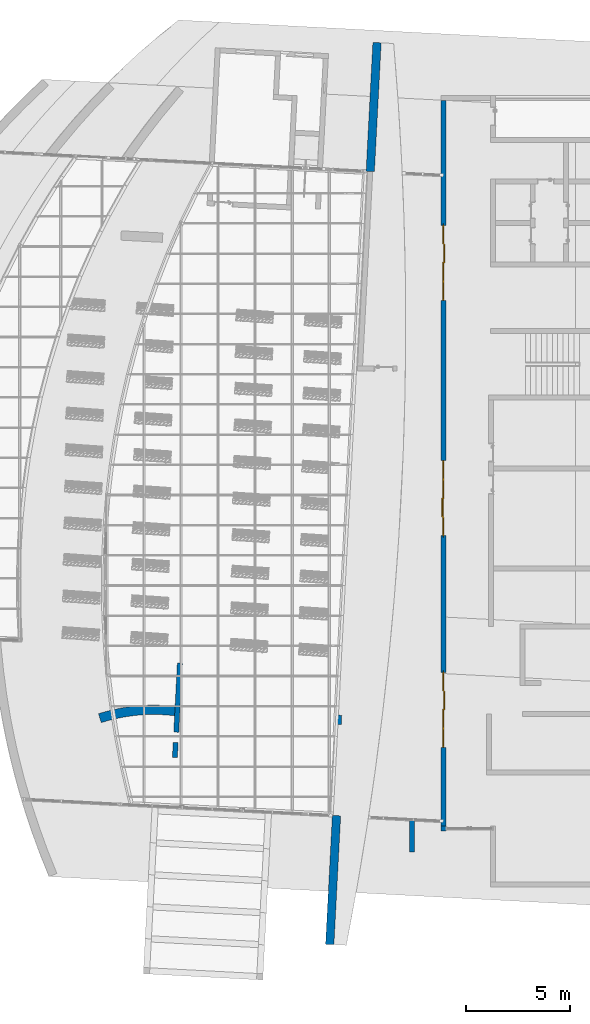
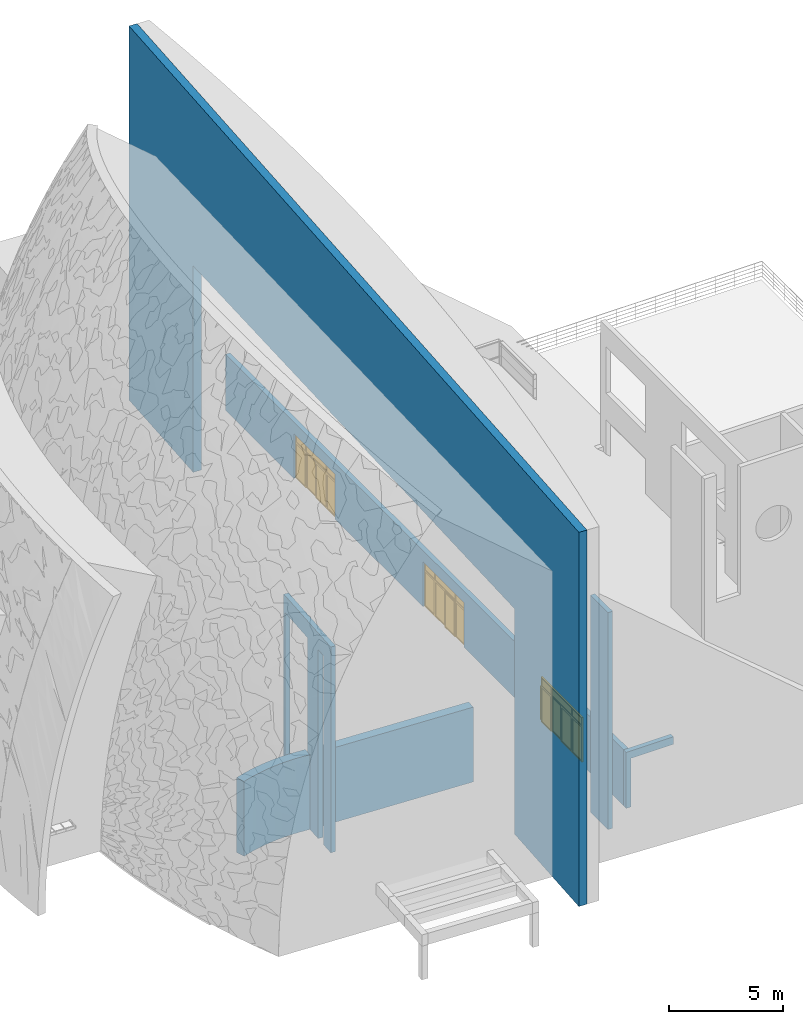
# One storey, part 52 of 82: 7 walls, 3 doors, 7 openings.
"""IFC2X3 building model written with IfcOpenShell, lengths in millimetres."""

from ifc_helpers import new_model, entity, si_unit, converted_unit, derived_unit, direction, frame, frame_2d, origin, origin_2d_with_axis, place, context, subcontext, project, spatial, polyline, circle_curve, parameter, trimmed, segment, composite_curve, rectangle, outline, extrude, source, transform, mapped, material, material_list, layer, layer_set, layer_usage, type_object, type_shapes, element, fill, save


model = new_model("IFC2X3")

# Units and contexts
model_context = context("Model", 3, precision=0.01, world=origin(), true_north=direction((6.12303176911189e-17, 1.0)))
body_context = subcontext(model_context, "Body", "Model", "MODEL_VIEW")
ifc_project = project(units=[si_unit("LENGTHUNIT", "METRE", prefix="MILLI"), si_unit("AREAUNIT", "SQUARE_METRE"), si_unit("VOLUMEUNIT", "CUBIC_METRE"), converted_unit("PLANEANGLEUNIT", "DEGREE", entity("IfcRatioMeasure", 0.0174532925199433), si_unit("PLANEANGLEUNIT", "RADIAN"), dimensions=[0, 0, 0, 0, 0, 0, 0]), si_unit("MASSUNIT", "GRAM", prefix="KILO"), derived_unit("MASSDENSITYUNIT", [(si_unit("MASSUNIT", "GRAM", prefix="KILO"), 1), (si_unit("LENGTHUNIT", "METRE"), -3)]), si_unit("TIMEUNIT", "SECOND"), si_unit("FREQUENCYUNIT", "HERTZ"), si_unit("THERMODYNAMICTEMPERATUREUNIT", "DEGREE_CELSIUS"), derived_unit("THERMALTRANSMITTANCEUNIT", [(si_unit("MASSUNIT", "GRAM", prefix="KILO"), 1), (si_unit("THERMODYNAMICTEMPERATUREUNIT", "KELVIN"), -1), (si_unit("TIMEUNIT", "SECOND"), -3)]), derived_unit("VOLUMETRICFLOWRATEUNIT", [(si_unit("LENGTHUNIT", "METRE"), 3), (si_unit("TIMEUNIT", "SECOND"), -1)]), si_unit("ELECTRICCURRENTUNIT", "AMPERE"), si_unit("ELECTRICVOLTAGEUNIT", "VOLT"), si_unit("POWERUNIT", "WATT"), si_unit("FORCEUNIT", "NEWTON", prefix="KILO"), si_unit("ILLUMINANCEUNIT", "LUX"), si_unit("LUMINOUSFLUXUNIT", "LUMEN"), si_unit("LUMINOUSINTENSITYUNIT", "CANDELA"), derived_unit("USERDEFINED", [(si_unit("MASSUNIT", "GRAM", prefix="KILO"), -1), (si_unit("LENGTHUNIT", "METRE"), -2), (si_unit("TIMEUNIT", "SECOND"), 3), (si_unit("LUMINOUSFLUXUNIT", "LUMEN"), 1)]), derived_unit("LINEARVELOCITYUNIT", [(si_unit("LENGTHUNIT", "METRE"), 1), (si_unit("TIMEUNIT", "SECOND"), -1)]), si_unit("PRESSUREUNIT", "PASCAL"), derived_unit("USERDEFINED", [(si_unit("LENGTHUNIT", "METRE"), -2), (si_unit("MASSUNIT", "GRAM", prefix="KILO"), 1), (si_unit("TIMEUNIT", "SECOND"), -2)])], contexts=[model_context])

# Site, building, storey
site_placement = place(None, origin())
site = spatial("IfcSite", under=ifc_project, at=site_placement, Name="表面", CompositionType="ELEMENT")
building_placement = place(site_placement, origin())
building = spatial("IfcBuilding", under=site, at=building_placement, CompositionType="ELEMENT")
storey_placement = place(building_placement, origin())
storey = spatial("IfcBuildingStorey", under=building, at=storey_placement, Name="1F", CompositionType="ELEMENT", Elevation=0.0)

# Wall, opening
ifc_material_1 = material(Name="石灰华")
ifc_layer_1 = layer(ifc_material_1, 20.0)
ifc_material_2 = material(Name="混凝土，现场浇注 - C40")
ifc_layer_2 = layer(ifc_material_2, 360.0)
ifc_layer_3 = layer(ifc_material_1, 20.0)
ifc_layer_set_1 = layer_set([ifc_layer_1, ifc_layer_2, ifc_layer_3], Name="基本墙:石墙 - 400mm")
ifc_layer_usage_1 = layer_usage(ifc_layer_set_1, "AXIS2", "POSITIVE", -200.0)
wall_type_1 = type_object("IfcWallType", Name="基本墙:石墙 - 400mm", PredefinedType="NOTDEFINED", material=ifc_layer_set_1)
wall_1_placement = place(storey_placement, frame((-17613.9897754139, 8351.0355804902, 0.0), z_axis=(0.0, 0.0, 1.0), x_axis=(-0.0523359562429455, -0.998629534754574, 0.0)))
wall_1 = element("IfcWallStandardCase", 1, at=wall_1_placement, inside=storey, type_object=wall_type_1, material=ifc_layer_usage_1, Name="基本墙:石墙 - 400mm", ObjectType="基本墙:石墙 - 400mm", context=body_context, shape_type="SweptSolid", body=[
    extrude(rectangle(XDim=43400.0, YDim=400.000000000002, at=frame_2d((21700.0, 7.105427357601e-13), x_axis=(-1.0, 0.0))), origin(), (0.0, 0.0, 1.0), 20000.0),
])
opening_1_placement = place(wall_1_placement, origin())
element("IfcOpeningElement", 2, at=opening_1_placement, cuts=wall_1, Name="基本墙:石墙 - 400mm", ObjectType="Opening", context=body_context, shape_type="SweptSolid", body=[
    extrude(outline(polyline([(-15500.0, -5768.54996776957), (15500.0, -5768.54996776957), (15500.0, 6275.44856118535), (-15500.0, 5261.65137435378), (-15500.0, -5768.54996776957)])), frame((21700.0, 200.0, 5768.54996776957), z_axis=(0.0, -1.0, 0.0), x_axis=(1.0, 0.0, 0.0)), (0.0, 0.0, 1.0), 400.0),
])

ifc_material_3 = material(Name="白色涂料")
ifc_layer_4 = layer(ifc_material_3, 10.0)
ifc_material_4 = material(Name="默认墙")
ifc_layer_5 = layer(ifc_material_4, 220.0)
ifc_layer_6 = layer(ifc_material_3, 10.0)
ifc_layer_set_2 = layer_set([ifc_layer_4, ifc_layer_5, ifc_layer_6], Name="基本墙:粉刷墙240")
ifc_layer_usage_2 = layer_usage(ifc_layer_set_2, "AXIS2", "NEGATIVE", 120.0)
wall_type_2 = type_object("IfcWallType", Name="基本墙:粉刷墙240", PredefinedType="STANDARD", material=ifc_layer_set_2)
wall_2_placement = place(storey_placement, frame((-12150.2499126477, -29416.868426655, 0.0), z_axis=(0.0, 0.0, 1.0), x_axis=(-1.0, 0.0, 0.0)))
wall_2 = element("IfcWallStandardCase", 3, at=wall_2_placement, inside=storey, type_object=wall_type_2, material=ifc_layer_usage_2, Name="基本墙:粉刷墙240", ObjectType="基本墙:粉刷墙240", context=body_context, shape_type="SweptSolid", body=[
    extrude(rectangle(XDim=2400.0, YDim=239.999999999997, at=frame_2d((1200.0, -3.26849658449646e-13), x_axis=(-1.0, 0.0))), origin(), (0.0, 0.0, 1.0), 3000.00000000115),
])
opening_2_placement = place(wall_2_placement, origin())
element("IfcOpeningElement", 4, at=opening_2_placement, cuts=wall_2, Name="基本墙:粉刷墙240", ObjectType="Opening", context=body_context, shape_type="SweptSolid", body=[
    extrude(rectangle(XDim=2600.0, YDim=2280.0, at=frame_2d((0.0, 0.0), x_axis=(0.0, 1.0))), frame((1020.0, -272.399999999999, 1300.0), z_axis=(0.0, 1.0, 0.0), x_axis=(-1.0, 0.0, 0.0)), (0.0, 0.0, 1.0), 544.800000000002),
])

# Wall, openings, doors
ifc_layer_usage_3 = layer_usage(ifc_layer_set_2, "AXIS2", "NEGATIVE", 120.0)
wall_3_placement = place(storey_placement, frame((-14430.2499126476, 5563.13157334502, 0.0), z_axis=(0.0, 0.0, 1.0), x_axis=(0.0, -1.0, 0.0)))
wall_3 = element("IfcWallStandardCase", 5, at=wall_3_placement, inside=storey, type_object=wall_type_2, material=ifc_layer_usage_3, Name="基本墙:粉刷墙240", ObjectType="基本墙:粉刷墙240", context=body_context, shape_type="SweptSolid", body=[
    extrude(rectangle(XDim=34860.0, YDim=240.000000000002, at=frame_2d((17430.0, -1.98951966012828e-13), x_axis=(-1.0, 0.0))), origin(), (0.0, 0.0, 1.0), 3000.00000000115),
])
opening_3_placement = place(wall_3_placement, frame((9600.0, 120.0, 0.0)))
opening_3 = element("IfcOpeningElement", 6, at=opening_3_placement, cuts=wall_3, Name="YM3627:YM3624:1", ObjectType="Opening", context=body_context, shape_type="SweptSolid", body=[
    extrude(rectangle(XDim=2400.0, YDim=3600.0, at=frame_2d((1200.0, 1800.0), x_axis=(1.0, 0.0))), frame((0.0, 0.0, 0.0), z_axis=(0.0, -1.0, 0.0), x_axis=(0.0, 0.0, 1.0)), (0.0, 0.0, 1.0), 240.0),
])
opening_4_placement = place(wall_3_placement, frame((17300.0, -120.0, 0.0)))
opening_4 = element("IfcOpeningElement", 7, at=opening_4_placement, cuts=wall_3, Name="YM3627:YM3624:1", ObjectType="Opening", context=body_context, shape_type="SweptSolid", body=[
    extrude(rectangle(XDim=2400.0, YDim=3600.0, at=frame_2d((1200.0, 1800.0), x_axis=(1.0, 0.0))), frame((0.0, 0.0, 0.0), z_axis=(0.0, 1.0, 0.0), x_axis=(0.0, 0.0, 1.0)), (0.0, 0.0, 1.0), 240.0),
])
opening_5_placement = place(wall_3_placement, frame((31080.0, 120.0, 0.0)))
opening_5 = element("IfcOpeningElement", 8, at=opening_5_placement, cuts=wall_3, Name="YM3627:YM3624:1", ObjectType="Opening", context=body_context, shape_type="SweptSolid", body=[
    extrude(rectangle(XDim=2400.0, YDim=3600.0, at=frame_2d((1200.0, 1800.0), x_axis=(1.0, 0.0))), frame((0.0, 0.0, 0.0), z_axis=(0.0, -1.0, 0.0), x_axis=(0.0, 0.0, 1.0)), (0.0, 0.0, 1.0), 240.0),
])
ifc_material_5 = material(Name="铝合金")
ifc_material_6 = material(Name="玻璃")
ifc_material_list_1 = material_list([ifc_material_5, ifc_material_6])
ifc_material_list_2 = material_list([ifc_material_5, ifc_material_6])
door_style_1 = type_object("IfcDoorStyle", Name="YM3624", ConstructionType="NOTDEFINED", OperationType="NOTDEFINED", ParameterTakesPrecedence=False, Sizeable=False, material=ifc_material_list_2)
shared_shape_1 = source(origin(), body_context, "Body", "SweptSolid", [
    extrude(outline(polyline([(-450.158847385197, -950.0), (450.158847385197, -950.0), (450.158847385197, 950.0), (-450.158847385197, 950.0), (-450.158847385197, -950.0)]), holes=[polyline([(-400.158847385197, -900.0), (-400.158847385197, 900.0), (400.158847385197, 900.0), (400.158847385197, -900.0), (-400.158847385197, -900.0)])]), frame((2250.1588473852, 40.0, 950.0), z_axis=(0.0, 1.0, 0.0), x_axis=(-1.0, 0.0, 0.0)), (0.0, 0.0, 1.0), 80.0),
    extrude(rectangle(XDim=20.0, YDim=800.317694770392, at=frame_2d((3.5527136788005e-15, -5.6843418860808e-14), x_axis=(1.0, 0.0))), frame((2250.15884738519, 80.0, 50.0), z_axis=(0.0, 0.0, 1.0), x_axis=(0.0, 1.0, 0.0)), (0.0, 0.0, 1.0), 1799.9999999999),
    extrude(rectangle(XDim=20.0, YDim=799.682305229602, at=origin_2d_with_axis()), frame((449.841152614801, 120.0, 50.0), z_axis=(0.0, 0.0, 1.0), x_axis=(0.0, 1.0, 0.0)), (0.0, 0.0, 1.0), 1800.00000000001),
    extrude(rectangle(XDim=20.0, YDim=948.664019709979, at=frame_2d((0.0, 8.5265128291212e-14), x_axis=(1.0, 0.0))), frame((3224.64970462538, 120.0, 50.0), z_axis=(0.0, 0.0, 1.0), x_axis=(0.0, 1.0, 0.0)), (0.0, 0.0, 1.0), 1800.0),
    extrude(rectangle(XDim=20.0, YDim=824.68230522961, at=frame_2d((0.0, 8.5265128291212e-14), x_axis=(1.0, 0.0))), frame((3137.65884738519, 120.0, 1950.0), z_axis=(0.0, 0.0, 1.0), x_axis=(0.0, 1.0, 0.0)), (0.0, 0.0, 1.0), 399.999999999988),
    extrude(rectangle(XDim=20.0, YDim=1751.27077908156, at=origin_2d_with_axis()), frame((1799.68230522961, 120.0, 1950.0), z_axis=(0.0, 0.0, 1.0), x_axis=(0.0, 1.0, 0.0)), (0.0, 0.0, 1.0), 399.999999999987),
    extrude(rectangle(XDim=20.0, YDim=825.317694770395, at=origin_2d_with_axis()), frame((462.658847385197, 120.0, 1950.0), z_axis=(0.0, 0.0, 1.0), x_axis=(0.0, 1.0, 0.0)), (0.0, 0.0, 1.0), 399.999999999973),
    extrude(rectangle(XDim=20.0, YDim=849.999999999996, at=origin_2d_with_axis()), frame((1374.6823052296, 120.0, 50.0), z_axis=(0.0, 0.0, 1.0), x_axis=(0.0, 1.0, 0.0)), (0.0, 0.0, 1.0), 1799.99999999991),
    extrude(outline(polyline([(-950.0, -449.841152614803), (950.0, -449.841152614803), (950.0, 449.841152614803), (-950.0, 449.841152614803), (-950.0, -449.841152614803)]), holes=[polyline([(-900.0, -399.841152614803), (-900.0, 399.841152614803), (900.0, 399.841152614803), (900.0, -399.841152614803), (-900.0, -399.841152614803)])]), frame((449.841152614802, 80.0, 950.0), z_axis=(0.0, 1.0, 0.0), x_axis=(0.0, 0.0, 1.0)), (0.0, 0.0, 1.0), 80.0),
    extrude(outline(polyline([(-950.0, -475.0), (950.0, -475.0), (950.0, 475.0), (-950.0, 475.0), (-950.0, -475.0)]), holes=[polyline([(-900.0, -425.0), (-900.0, 425.0), (900.0, 425.0), (900.0, -425.0), (-900.0, -425.0)])]), frame((1374.6823052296, 80.0, 950.0), z_axis=(0.0, 1.0, 0.0), x_axis=(0.0, 0.0, 1.0)), (0.0, 0.0, 1.0), 80.0),
    extrude(outline(polyline([(-950.0, -449.841152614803), (950.0, -449.841152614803), (950.0, 449.841152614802), (-950.0, 449.841152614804), (-950.0, -449.841152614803)]), holes=[polyline([(-900.0, -399.841152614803), (-900.0, 399.841152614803), (900.0, 399.841152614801), (900.0, -399.841152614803), (-900.0, -399.841152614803)])]), frame((3150.1588473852, 80.0, 950.0), z_axis=(0.0, 1.0, 0.0), x_axis=(0.0, 0.0, 1.0)), (0.0, 0.0, 1.0), 80.0),
    extrude(outline(polyline([(-250.0, -1800.0), (250.0, -1800.0), (250.0, 1800.0), (-250.0, 1800.0), (-250.0, -1800.0)]), holes=[polyline([(-200.0, 925.317694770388), (-200.0, 1750.0), (200.0, 1750.0), (200.0, 925.317694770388), (-200.0, 925.317694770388)]), polyline([(200.0, -924.682305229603), (200.0, -1750.0), (-200.0, -1750.0), (-200.0, -924.682305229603), (200.0, -924.682305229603)]), polyline([(200.0, 875.317694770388), (200.0, -874.682305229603), (-200.0, -874.682305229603), (-200.0, 875.317694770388), (200.0, 875.317694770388)])]), frame((1800.0, 80.0, 2150.0), z_axis=(0.0, 1.0, 0.0), x_axis=(0.0, 0.0, 1.0)), (0.0, 0.0, 1.0), 80.0),
])
type_shapes(door_style_1, [shared_shape_1])
door_1_placement = place(opening_3_placement, frame((0.0, 0.0, 0.0), z_axis=(0.0, 0.0, 1.0), x_axis=(-1.0, 0.0, 0.0)))
door_1 = element("IfcDoor", 9, at=door_1_placement, inside=storey, type_object=door_style_1, material=ifc_material_list_1, Name="YM3627:YM3624", ObjectType="YM3624", OverallHeight=2400.0, OverallWidth=3600.0, context=body_context, shape_type="MappedRepresentation", body=[
    mapped(shared_shape_1, transform((0.0, 0.0, 0.0), scale=1.0)),
])
fill(opening_3, door_1)
ifc_material_list_3 = material_list([ifc_material_5, ifc_material_6])
door_2_placement = place(opening_5_placement, frame((0.0, 0.0, 0.0), z_axis=(0.0, 0.0, 1.0), x_axis=(-1.0, 0.0, 0.0)))
door_2 = element("IfcDoor", 10, at=door_2_placement, inside=storey, type_object=door_style_1, material=ifc_material_list_3, Name="YM3627:YM3624", ObjectType="YM3624", OverallHeight=2400.0, OverallWidth=3600.0, context=body_context, shape_type="MappedRepresentation", body=[
    mapped(shared_shape_1, transform((0.0, 0.0, 0.0), scale=1.0)),
])
fill(opening_5, door_2)
ifc_material_list_4 = material_list([ifc_material_5, ifc_material_6])
ifc_material_list_5 = material_list([ifc_material_5, ifc_material_6])
door_style_2 = type_object("IfcDoorStyle", Name="YM3624", ConstructionType="NOTDEFINED", OperationType="NOTDEFINED", ParameterTakesPrecedence=False, Sizeable=False, material=ifc_material_list_5)
shared_shape_2 = source(origin(), body_context, "Body", "SweptSolid", [
    extrude(outline(polyline([(-450.158847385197, -950.0), (450.158847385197, -950.0), (450.158847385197, 950.0), (-450.158847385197, 950.0), (-450.158847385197, -950.0)]), holes=[polyline([(-400.158847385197, -900.0), (-400.158847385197, 900.0), (400.158847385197, 900.0), (400.158847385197, -900.0), (-400.158847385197, -900.0)])]), frame((2250.1588473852, 40.0, 950.0), z_axis=(0.0, 1.0, 0.0), x_axis=(-1.0, 0.0, 0.0)), (0.0, 0.0, 1.0), 80.0),
    extrude(rectangle(XDim=20.0, YDim=800.317694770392, at=frame_2d((3.5527136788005e-15, -5.6843418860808e-14), x_axis=(1.0, 0.0))), frame((2250.15884738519, 80.0, 50.0), z_axis=(0.0, 0.0, 1.0), x_axis=(0.0, 1.0, 0.0)), (0.0, 0.0, 1.0), 1799.9999999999),
    extrude(rectangle(XDim=20.0, YDim=799.682305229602, at=origin_2d_with_axis()), frame((449.841152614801, 120.0, 50.0), z_axis=(0.0, 0.0, 1.0), x_axis=(0.0, 1.0, 0.0)), (0.0, 0.0, 1.0), 1800.00000000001),
    extrude(rectangle(XDim=20.0, YDim=948.664019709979, at=frame_2d((0.0, 8.5265128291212e-14), x_axis=(1.0, 0.0))), frame((3224.64970462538, 120.0, 50.0), z_axis=(0.0, 0.0, 1.0), x_axis=(0.0, 1.0, 0.0)), (0.0, 0.0, 1.0), 1800.0),
    extrude(rectangle(XDim=20.0, YDim=824.68230522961, at=frame_2d((0.0, 8.5265128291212e-14), x_axis=(1.0, 0.0))), frame((3137.65884738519, 120.0, 1950.0), z_axis=(0.0, 0.0, 1.0), x_axis=(0.0, 1.0, 0.0)), (0.0, 0.0, 1.0), 399.999999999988),
    extrude(rectangle(XDim=20.0, YDim=1751.27077908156, at=origin_2d_with_axis()), frame((1799.68230522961, 120.0, 1950.0), z_axis=(0.0, 0.0, 1.0), x_axis=(0.0, 1.0, 0.0)), (0.0, 0.0, 1.0), 399.999999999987),
    extrude(rectangle(XDim=20.0, YDim=825.317694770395, at=origin_2d_with_axis()), frame((462.658847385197, 120.0, 1950.0), z_axis=(0.0, 0.0, 1.0), x_axis=(0.0, 1.0, 0.0)), (0.0, 0.0, 1.0), 399.999999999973),
    extrude(rectangle(XDim=20.0, YDim=849.999999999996, at=origin_2d_with_axis()), frame((1374.6823052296, 120.0, 50.0), z_axis=(0.0, 0.0, 1.0), x_axis=(0.0, 1.0, 0.0)), (0.0, 0.0, 1.0), 1799.99999999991),
    extrude(outline(polyline([(-950.0, -449.841152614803), (950.0, -449.841152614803), (950.0, 449.841152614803), (-950.0, 449.841152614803), (-950.0, -449.841152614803)]), holes=[polyline([(-900.0, -399.841152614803), (-900.0, 399.841152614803), (900.0, 399.841152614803), (900.0, -399.841152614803), (-900.0, -399.841152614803)])]), frame((449.841152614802, 80.0, 950.0), z_axis=(0.0, 1.0, 0.0), x_axis=(0.0, 0.0, 1.0)), (0.0, 0.0, 1.0), 80.0),
    extrude(outline(polyline([(-950.0, -475.0), (950.0, -475.0), (950.0, 475.0), (-950.0, 475.0), (-950.0, -475.0)]), holes=[polyline([(-900.0, -425.0), (-900.0, 425.0), (900.0, 425.0), (900.0, -425.0), (-900.0, -425.0)])]), frame((1374.6823052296, 80.0, 950.0), z_axis=(0.0, 1.0, 0.0), x_axis=(0.0, 0.0, 1.0)), (0.0, 0.0, 1.0), 80.0),
    extrude(outline(polyline([(-950.0, -449.841152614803), (950.0, -449.841152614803), (950.0, 449.841152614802), (-950.0, 449.841152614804), (-950.0, -449.841152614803)]), holes=[polyline([(-900.0, -399.841152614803), (-900.0, 399.841152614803), (900.0, 399.841152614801), (900.0, -399.841152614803), (-900.0, -399.841152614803)])]), frame((3150.1588473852, 80.0, 950.0), z_axis=(0.0, 1.0, 0.0), x_axis=(0.0, 0.0, 1.0)), (0.0, 0.0, 1.0), 80.0),
    extrude(outline(polyline([(-250.0, -1800.0), (250.0, -1800.0), (250.0, 1800.0), (-250.0, 1800.0), (-250.0, -1800.0)]), holes=[polyline([(-200.0, 925.317694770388), (-200.0, 1750.0), (200.0, 1750.0), (200.0, 925.317694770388), (-200.0, 925.317694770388)]), polyline([(200.0, -924.682305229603), (200.0, -1750.0), (-200.0, -1750.0), (-200.0, -924.682305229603), (200.0, -924.682305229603)]), polyline([(200.0, 875.317694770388), (200.0, -874.682305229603), (-200.0, -874.682305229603), (-200.0, 875.317694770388), (200.0, 875.317694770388)])]), frame((1800.0, 80.0, 2150.0), z_axis=(0.0, 1.0, 0.0), x_axis=(0.0, 0.0, 1.0)), (0.0, 0.0, 1.0), 80.0),
])
type_shapes(door_style_2, [shared_shape_2])
door_3_placement = place(opening_4_placement, origin())
door_3 = element("IfcDoor", 11, at=door_3_placement, inside=storey, type_object=door_style_2, material=ifc_material_list_4, Name="YM3627:YM3624", ObjectType="YM3624", OverallHeight=2400.0, OverallWidth=3600.0, context=body_context, shape_type="MappedRepresentation", body=[
    mapped(shared_shape_2, transform((0.0, 0.0, 0.0), scale=1.0)),
])
fill(opening_4, door_3)

# Wall
ifc_layer_usage_4 = layer_usage(ifc_layer_set_2, "AXIS2", "NEGATIVE", 120.0)
wall_4_placement = place(storey_placement, frame((-15930.2499126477, -28988.2567577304, 0.0), z_axis=(0.0, 0.0, 1.0), x_axis=(0.0, -1.0, 0.0)))
element("IfcWallStandardCase", 12, at=wall_4_placement, inside=storey, type_object=wall_type_2, material=ifc_layer_usage_4, Name="基本墙:粉刷墙240", ObjectType="基本墙:粉刷墙240", context=body_context, shape_type="SweptSolid", body=[
    extrude(rectangle(XDim=1548.61166892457, YDim=240.000000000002, at=frame_2d((774.305834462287, 9.2370555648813e-14), x_axis=(-1.0, 0.0))), origin(), (0.0, 0.0, 1.0), 11600.0000000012),
])

# Wall, openings
ifc_layer_usage_5 = layer_usage(ifc_layer_set_2, "AXIS2", "NEGATIVE", 120.0)
wall_5_placement = place(storey_placement, frame((-27090.3003345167, -21473.8866641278, 0.0), z_axis=(0.0, 0.0, 1.0), x_axis=(-0.0523359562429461, -0.998629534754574, 0.0)))
wall_5 = element("IfcWallStandardCase", 13, at=wall_5_placement, inside=storey, type_object=wall_type_2, material=ifc_layer_usage_5, Name="基本墙:粉刷墙240", ObjectType="基本墙:粉刷墙240", context=body_context, shape_type="SweptSolid", body=[
    extrude(rectangle(XDim=4540.0, YDim=239.999999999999, at=frame_2d((2270.0, 1.34292577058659e-12), x_axis=(-1.0, 0.0))), origin(), (0.0, 0.0, 1.0), 11000.0000000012),
])
opening_6_placement = place(wall_5_placement, origin())
element("IfcOpeningElement", 14, at=opening_6_placement, cuts=wall_5, Name="基本墙:粉刷墙240", ObjectType="Opening", context=body_context, shape_type="SweptSolid", body=[
    extrude(rectangle(XDim=10100.0000000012, YDim=500.000000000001, at=frame_2d((0.0, -2.1600499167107e-12), x_axis=(1.0, 0.0))), frame((3570.0, 120.0, 5050.0), z_axis=(0.0, -1.0, 0.0), x_axis=(0.0, 0.0, 1.0)), (0.0, 0.0, 1.0), 240.0),
])
opening_7_placement = place(wall_5_placement, origin())
element("IfcOpeningElement", 15, at=opening_7_placement, cuts=wall_5, Name="基本墙:粉刷墙240", ObjectType="Opening", context=body_context, shape_type="SweptSolid", body=[
    extrude(rectangle(XDim=8600.00000000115, YDim=2200.0, at=frame_2d((-6.48014975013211e-12, 4.54747350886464e-13), x_axis=(0.0, -1.0))), frame((1220.0, 120.0, 5800.0), z_axis=(0.0, 1.0, 0.0), x_axis=(1.0, 0.0, 0.0)), (0.0, 0.0, -1.0), 240.0),
])

# Walls
ifc_material_7 = material(Name="木质 - 木材")
ifc_layer_7 = layer(ifc_material_7, 20.0)
ifc_layer_8 = layer(ifc_material_4, 410.0)
ifc_layer_9 = layer(ifc_material_7, 20.0)
ifc_layer_set_3 = layer_set([ifc_layer_7, ifc_layer_8, ifc_layer_9], Name="基本墙:内墙450")
ifc_layer_usage_6 = layer_usage(ifc_layer_set_3, "AXIS2", "NEGATIVE", 225.0)
wall_type_3 = type_object("IfcWallType", Name="基本墙:内墙450", PredefinedType="STANDARD", material=ifc_layer_set_3)
wall_6_placement = place(storey_placement, frame((-27091.8842088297, -23796.9874995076, 0.0), z_axis=(0.0, 0.0, 1.0), x_axis=(0.998629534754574, -0.0523359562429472, 0.0)))
element("IfcWallStandardCase", 16, at=wall_6_placement, inside=storey, type_object=wall_type_3, material=ifc_layer_usage_6, Name="基本墙:内墙450", ObjectType="基本墙:内墙450", context=body_context, shape_type="SweptSolid", body=[
    extrude(rectangle(XDim=7782.40777928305, YDim=450.000000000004, at=frame_2d((3891.20388964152, 4.54747350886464e-13), x_axis=(-1.0, 0.0))), origin(), (0.0, 0.0, 1.0), 4000.0),
])
ifc_layer_usage_7 = layer_usage(ifc_layer_set_3, "AXIS2", "NEGATIVE", 225.0)
wall_7_placement = place(storey_placement, frame((-27315.5015738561, -23777.3318009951, 0.0)))
element("IfcWallStandardCase", 17, at=wall_7_placement, inside=storey, type_object=wall_type_3, material=ifc_layer_usage_7, Name="基本墙:内墙450", ObjectType="基本墙:内墙450", context=body_context, shape_type="SweptSolid", body=[
    extrude(outline(composite_curve([segment(trimmed(circle_curve(frame_2d((-1034.58092503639, -8436.80284880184), x_axis=(1.0, 0.0)), 8275.0), [parameter(83.0088862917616)], [parameter(107.69646412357)], True, "PARAMETER"), False, "CONTINUOUS"), segment(polyline([(-27.3859656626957, -223.327134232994), (-3.78049448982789, 227.092087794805)]), True, "CONTINUOUS"), segment(trimmed(circle_curve(frame_2d((-1034.58092503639, -8436.80284880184), x_axis=(1.0, 0.0)), 8725.0), [parameter(83.215039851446)], [parameter(107.69646412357)], True, "PARAMETER"), True, "CONTINUOUS"), segment(polyline([(-3686.75642248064, -124.66773616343), (-3549.96800140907, -553.373845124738)]), True, "CONTINUOUS")], self_intersect=False)), origin(), (0.0, 0.0, 1.0), 4000.0),
])

save(model, "model.ifc")
